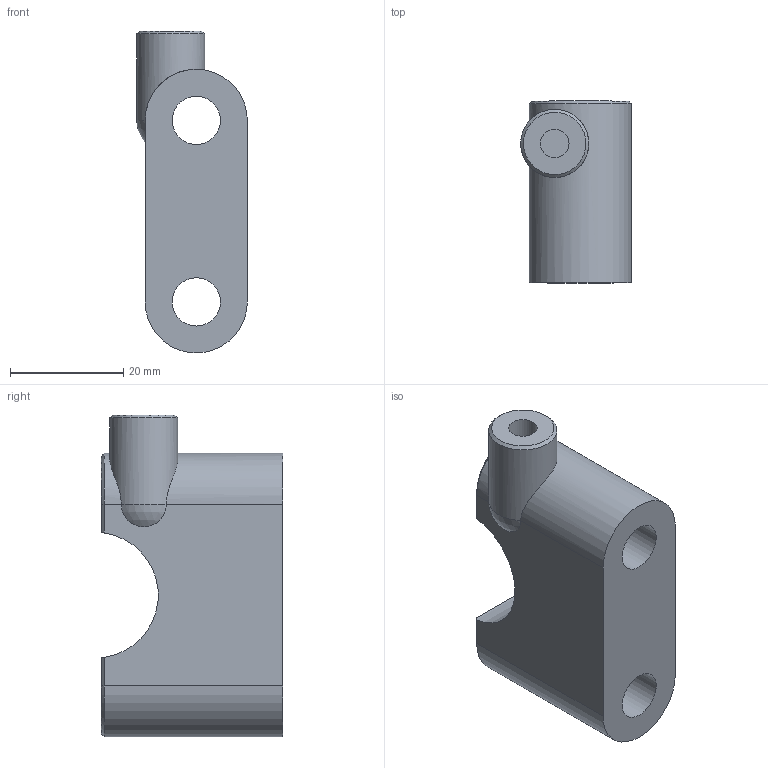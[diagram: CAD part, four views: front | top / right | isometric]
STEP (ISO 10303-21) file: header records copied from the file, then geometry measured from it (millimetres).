
FILE_DESCRIPTION(/* description */ (''),/* implementation_level */ '2;1');
FILE_NAME(/* name */ 'Lower Left Clamp.step',/* time_stamp */ '2024-02-04T12:49:04-06:00',/* author */ (''),/* organization */ (''),/* preprocessor_version */ 'ST-DEVELOPER v20',/* originating_system */ 'Autodesk Translation Framework v12.20.1.177',/* authorisation */ '');
FILE_SCHEMA (('AUTOMOTIVE_DESIGN { 1 0 10303 214 3 1 1 }'));
Length unit declared in the file: millimetre
Products named in the file (3): Top Clamp Prototyping; Simplified Clamps k75d; Lower Left Clamp
Assembly tree (2 placements, depth 3):
  Top Clamp Prototyping
    Simplified Clamps k75d
      Lower Left Clamp
Bounding box: 19.5 x 32 x 56.75 mm (x, y, z)
Volume: 20711 mm3; surface area: 7315 mm2
Topology: 1 solids, 1 shells, 22 faces, 50 edges, 31 vertices
Faces by surface type: plane 11, cylinder 7, cone 3, sphere 1
Full cylindrical faces by diameter (mm): 5.035 x1, 8.5 x2, 12 x1
Entity records: 751 total; most frequent: CARTESIAN_POINT 145, DIRECTION 126, ORIENTED_EDGE 100, EDGE_CURVE 50, AXIS2_PLACEMENT_3D 50, VERTEX_POINT 31, EDGE_LOOP 27, LINE 26
